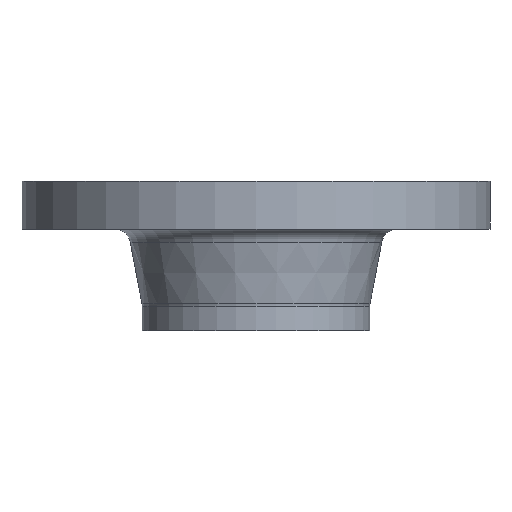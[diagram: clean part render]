
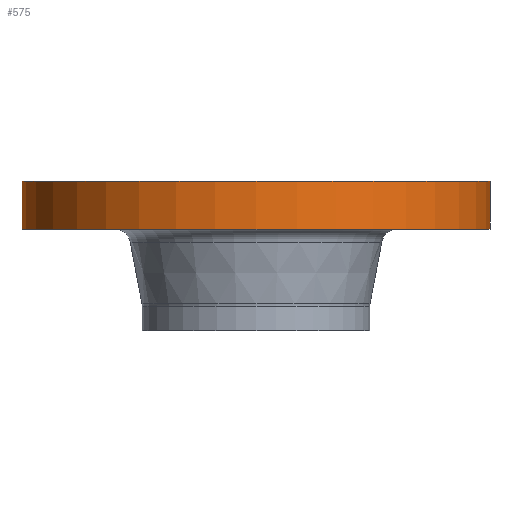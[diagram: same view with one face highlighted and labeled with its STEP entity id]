
A CAD part, front view. The second image highlights one B-rep face of the part: STEP entity #575.
In plain terms, the highlighted cylindrical face has radius 117.5 mm (diameter 235 mm), a partial arc.
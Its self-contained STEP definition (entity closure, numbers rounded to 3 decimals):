
#9 = AXIS2_PLACEMENT_3D ( 'NONE', #717, #21, #342 ) ;
#21 = DIRECTION ( 'NONE',  ( 0., 0., 1. ) ) ;
#23 = EDGE_CURVE ( 'NONE', #537, #883, #613, .T. ) ;
#60 = VERTEX_POINT ( 'NONE', #336 ) ;
#97 = CIRCLE ( 'NONE', #99, 117.5 ) ;
#99 = AXIS2_PLACEMENT_3D ( 'NONE', #866, #211, #507 ) ;
#103 = FACE_OUTER_BOUND ( 'NONE', #376, .T. ) ;
#138 = EDGE_CURVE ( 'NONE', #427, #60, #97, .T. ) ;
#145 = DIRECTION ( 'NONE',  ( 0., 0., 1. ) ) ;
#179 = ORIENTED_EDGE ( 'NONE', *, *, #138, .T. ) ;
#211 = DIRECTION ( 'NONE',  ( 0., 0., 1. ) ) ;
#253 = DIRECTION ( 'NONE',  ( 1., 0., 0. ) ) ;
#255 = VECTOR ( 'NONE', #861, 1000. ) ;
#280 = LINE ( 'NONE', #569, #255 ) ;
#336 = CARTESIAN_POINT ( 'NONE',  ( 117.5, 0., -24. ) ) ;
#342 = DIRECTION ( 'NONE',  ( 1., 0., 0. ) ) ;
#376 = EDGE_LOOP ( 'NONE', ( #845, #179, #475, #403 ) ) ;
#403 = ORIENTED_EDGE ( 'NONE', *, *, #23, .F. ) ;
#409 = CYLINDRICAL_SURFACE ( 'NONE', #9, 117.5 ) ;
#427 = VERTEX_POINT ( 'NONE', #458 ) ;
#445 = VECTOR ( 'NONE', #145, 1000. ) ;
#458 = CARTESIAN_POINT ( 'NONE',  ( -117.5, 0., -24. ) ) ;
#475 = ORIENTED_EDGE ( 'NONE', *, *, #964, .T. ) ;
#477 = CARTESIAN_POINT ( 'NONE',  ( -117.5, 0., 0. ) ) ;
#507 = DIRECTION ( 'NONE',  ( 1., 0., 0. ) ) ;
#524 = LINE ( 'NONE', #821, #445 ) ;
#537 = VERTEX_POINT ( 'NONE', #477 ) ;
#569 = CARTESIAN_POINT ( 'NONE',  ( 117.5, 0., -75. ) ) ;
#575 = ADVANCED_FACE ( 'NONE', ( #103 ), #409, .T. ) ;
#601 = AXIS2_PLACEMENT_3D ( 'NONE', #627, #898, #253 ) ;
#613 = CIRCLE ( 'NONE', #601, 117.5 ) ;
#627 = CARTESIAN_POINT ( 'NONE',  ( 0., 0., 0. ) ) ;
#717 = CARTESIAN_POINT ( 'NONE',  ( 0., 0., -75. ) ) ;
#821 = CARTESIAN_POINT ( 'NONE',  ( -117.5, 0., -75. ) ) ;
#824 = EDGE_CURVE ( 'NONE', #427, #537, #524, .T. ) ;
#845 = ORIENTED_EDGE ( 'NONE', *, *, #824, .F. ) ;
#861 = DIRECTION ( 'NONE',  ( 0., 0., 1. ) ) ;
#866 = CARTESIAN_POINT ( 'NONE',  ( 0., 0., -24. ) ) ;
#883 = VERTEX_POINT ( 'NONE', #891 ) ;
#891 = CARTESIAN_POINT ( 'NONE',  ( 117.5, 0., 0. ) ) ;
#898 = DIRECTION ( 'NONE',  ( 0., 0., 1. ) ) ;
#964 = EDGE_CURVE ( 'NONE', #60, #883, #280, .T. ) ;
